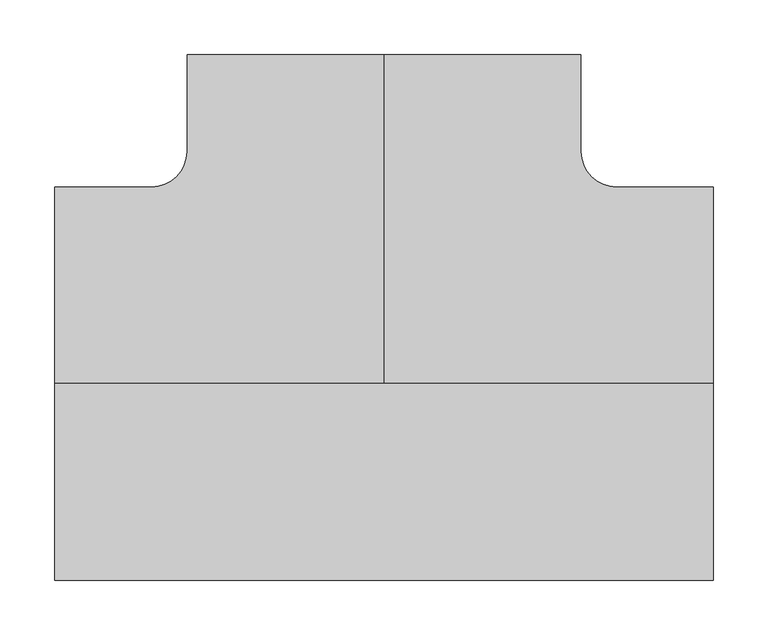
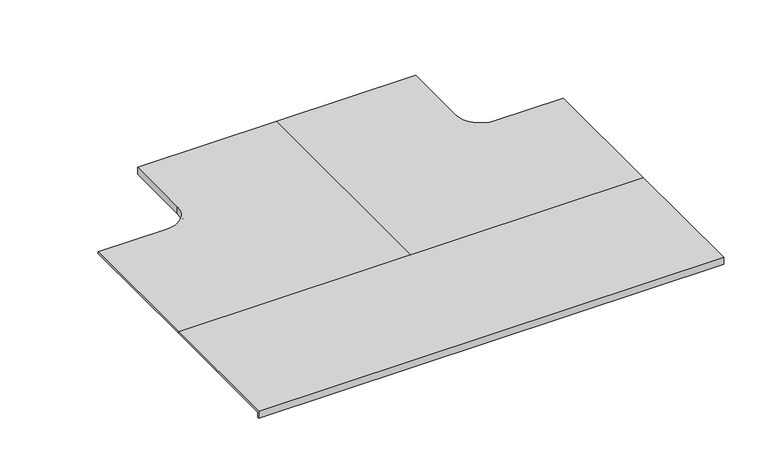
"""IFC4 building model written with IfcOpenShell, lengths in millimetres: cable carrier fitting geometry, CCT_Hyperline_FBTR-TEE-CVR Крышка на ответвитель Т-образный пластиковый : Крышка на ответвитель Т-образный пластиковый."""

from ifc_helpers import new_model, si_unit, frame, origin, place, context, project, spatial, polyline, circle_curve, outline, extrude, source, transform, mapped, element, save
from ifc_brep_helpers import plane_surface, cylinder_surface, revolved_surface, advanced_brep


def cable_carrier_fitting_42ad5d54(model_context):
    return source(origin(), model_context, "Body", "SolidModel", [
        extrude(outline(polyline([(-180.54, 52.54), (0.0, 52.54), (0.0, 50.0), (-178.0, 50.0), (-178.0, 43.0), (-180.54, 43.0), (-180.54, 52.54)])), frame((-302.0, 0.0, 0.0), z_axis=(1.0, 0.0, 0.0), x_axis=(0.0, 1.0, 0.0)), (0.0, 0.0, 1.0), 604.0),
        advanced_brep(
        [(302.0, 180.54, 52.54), (302.0, 0.0, 52.54), (302.0, 0.0, 50.0), (302.0, 180.54, 50.0), (213.0, 178.0, 50.0), (213.0, 178.0, 43.0), (282.0, 178.0, 43.0), (282.0, 178.0, 50.0), (178.0, 213.0, 43.0), (178.0, 302.0, 43.0), (180.54, 302.0, 43.0), (180.54, 213.0, 43.0), (213.0, 180.54, 43.0), (282.0, 180.54, 43.0), (213.0, 180.54, 52.54), (282.0, 180.54, 50.0), (178.0, 213.0, 50.0), (180.54, 213.0, 52.54), (0.0, 302.0, 52.54), (180.54, 302.0, 52.54), (178.0, 302.0, 50.0), (0.0, 302.0, 50.0), (0.0, 0.0, 52.54), (0.0, 0.0, 50.0)],
        [
            (0, 1),
            (1, 2),
            (2, 3),
            (3, 0),
            (4, 5),
            (5, 6),
            (6, 7),
            (7, 4),
            (5, 8, circle_curve(frame((213.0, 213.0, 43.0), z_axis=(0.0, 0.0, -1.0), x_axis=(0.0, -1.0, 0.0)), 35.0)),
            (8, 9),
            (9, 10),
            (10, 11),
            (11, 12, circle_curve(frame((213.0, 213.0, 43.0), z_axis=(0.0, 0.0, 1.0), x_axis=(0.0, -1.0, 0.0)), 32.46)),
            (12, 13),
            (13, 6),
            (14, 0),
            (3, 15),
            (15, 13),
            (12, 14),
            (4, 16, circle_curve(frame((213.0, 213.0, 50.0), z_axis=(0.0, 0.0, -1.0), x_axis=(0.0, -1.0, 0.0)), 35.0)),
            (16, 8),
            (17, 14, circle_curve(frame((213.0, 213.0, 52.54), z_axis=(0.0, 0.0, 1.0), x_axis=(0.0, -1.0, 0.0)), 32.46)),
            (11, 17),
            (18, 19),
            (19, 10),
            (9, 20),
            (20, 21),
            (21, 18),
            (16, 20),
            (19, 17),
            (18, 22),
            (22, 1),
            (22, 23),
            (23, 2),
            (23, 21),
            (7, 15),
        ],
        [
            plane_surface(frame((302.0, 178.0, 25.0), z_axis=(1.0, 0.0, 0.0), x_axis=(0.0, 0.0, 1.0))),
            plane_surface(frame((302.0, 178.0, 50.0), z_axis=(0.0, -1.0, 0.0), x_axis=(-1.0, 0.0, 0.0))),
            plane_surface(frame((302.0, 178.0, 43.0), z_axis=(0.0, 0.0, -1.0), x_axis=(-1.0, 0.0, 0.0))),
            plane_surface(frame((302.0, 180.54, 43.0), z_axis=(0.0, 1.0, 0.0), x_axis=(-1.0, 0.0, 0.0))),
            cylinder_surface(frame((213.0, 213.0, 25.0), z_axis=(0.0, 0.0, -1.0), x_axis=(0.0, -1.0, 0.0)), 35.0),
            revolved_surface(polyline([(213.0, 180.54, 43.0), (213.0, 180.54, 52.54)]), (213.0, 213.0, 25.0), (0.0, 0.0, -1.0)),
            plane_surface(frame((178.0, 302.0, 25.0), z_axis=(0.0, 1.0, 0.0), x_axis=(0.0, 0.0, 1.0))),
            plane_surface(frame((178.0, 213.0, 50.0), z_axis=(-1.0, 0.0, 0.0), x_axis=(0.0, 1.0, 0.0))),
            plane_surface(frame((180.54, 213.0, 43.0), z_axis=(1.0, 0.0, 0.0), x_axis=(0.0, 1.0, 0.0))),
            plane_surface(frame((302.0, 180.54, 52.54), z_axis=(0.0, 0.0, 1.0), x_axis=(-1.0, 0.0, 0.0))),
            plane_surface(frame((302.0, 0.0, 52.54), z_axis=(0.0, -1.0, 0.0), x_axis=(-1.0, 0.0, 0.0))),
            plane_surface(frame((302.0, 0.0, 50.0), z_axis=(0.0, 0.0, -1.0), x_axis=(-1.0, 0.0, 0.0))),
            plane_surface(frame((0.0, 213.0, 52.54), z_axis=(-1.0, 0.0, 0.0), x_axis=(0.0, 1.0, 0.0))),
            plane_surface(frame((282.0, 180.54, 43.0), z_axis=(1.0, 0.0, 0.0), x_axis=(0.0, -1.0, 0.0))),
        ],
        [
            (0, [[1, 2, 3, 4]]),
            (1, [[5, 6, 7, 8]]),
            (2, [[9, 10, 11, 12, 13, 14, 15, -6]]),
            (3, [[16, -4, 17, 18, -14, 19]]),
            (4, [[20, 21, -9, -5]]),
            (5, [[22, -19, -13, 23]]),
            (6, [[24, 25, -11, 26, 27, 28]]),
            (7, [[29, -26, -10, -21]]),
            (8, [[30, -23, -12, -25]]),
            (9, [[-1, -16, -22, -30, -24, 31, 32]]),
            (10, [[-2, -32, 33, 34]]),
            (11, [[-34, 35, -27, -29, -20, -8, 36, -17, -3]]),
            (12, [[-31, -28, -35, -33]]),
            (13, [[-36, -7, -15, -18]]),
        ],
    ),
        advanced_brep(
        [(-302.0, 180.54, 52.54), (-302.0, 180.54, 50.0), (-302.0, 0.0, 50.0), (-302.0, 0.0, 52.54), (-213.0, 178.0, 50.0), (-282.0, 178.0, 50.0), (-282.0, 178.0, 43.0), (-213.0, 178.0, 43.0), (-282.0, 180.54, 43.0), (-213.0, 180.54, 43.0), (-180.54, 213.0, 43.0), (-180.54, 302.0, 43.0), (-178.0, 302.0, 43.0), (-178.0, 213.0, 43.0), (-213.0, 180.54, 52.54), (-282.0, 180.54, 50.0), (-178.0, 213.0, 50.0), (-180.54, 213.0, 52.54), (0.0, 302.0, 52.54), (0.0, 302.0, 50.0), (-178.0, 302.0, 50.0), (-180.54, 302.0, 52.54), (0.0, 0.0, 52.54), (0.0, 0.0, 50.0)],
        [
            (0, 1),
            (1, 2),
            (2, 3),
            (3, 0),
            (4, 5),
            (5, 6),
            (6, 7),
            (7, 4),
            (6, 8),
            (8, 9),
            (9, 10, circle_curve(frame((-213.0, 213.0, 43.0), z_axis=(0.0, 0.0, 1.0), x_axis=(0.0, -1.0, 0.0)), 32.46)),
            (10, 11),
            (11, 12),
            (12, 13),
            (13, 7, circle_curve(frame((-213.0, 213.0, 43.0), z_axis=(0.0, 0.0, -1.0), x_axis=(0.0, -1.0, 0.0)), 35.0)),
            (14, 9),
            (8, 15),
            (15, 1),
            (0, 14),
            (13, 16),
            (16, 4, circle_curve(frame((-213.0, 213.0, 50.0), z_axis=(0.0, 0.0, -1.0), x_axis=(0.0, -1.0, 0.0)), 35.0)),
            (17, 10),
            (14, 17, circle_curve(frame((-213.0, 213.0, 52.54), z_axis=(0.0, 0.0, 1.0), x_axis=(0.0, -1.0, 0.0)), 32.46)),
            (18, 19),
            (19, 20),
            (20, 12),
            (11, 21),
            (21, 18),
            (20, 16),
            (17, 21),
            (3, 22),
            (22, 18),
            (2, 23),
            (23, 22),
            (15, 5),
            (19, 23),
        ],
        [
            plane_surface(frame((-302.0, 178.0, 25.0), z_axis=(-1.0, 0.0, 0.0), x_axis=(0.0, 0.0, 1.0))),
            plane_surface(frame((-302.0, 178.0, 50.0), z_axis=(0.0, -1.0, 0.0), x_axis=(1.0, 0.0, 0.0))),
            plane_surface(frame((-302.0, 178.0, 43.0), z_axis=(0.0, 0.0, -1.0), x_axis=(1.0, 0.0, 0.0))),
            plane_surface(frame((-302.0, 180.54, 43.0), z_axis=(0.0, 1.0, 0.0), x_axis=(1.0, 0.0, 0.0))),
            cylinder_surface(frame((-213.0, 213.0, 25.0), z_axis=(0.0, 0.0, -1.0), x_axis=(0.0, -1.0, 0.0)), 35.0),
            revolved_surface(polyline([(-213.0, 180.54, 43.0), (-213.0, 180.54, 52.54)]), (-213.0, 213.0, 25.0), (0.0, 0.0, -1.0)),
            plane_surface(frame((-178.0, 302.0, 25.0), z_axis=(0.0, 1.0, 0.0), x_axis=(0.0, 0.0, 1.0))),
            plane_surface(frame((-178.0, 213.0, 50.0), z_axis=(1.0, 0.0, 0.0), x_axis=(0.0, 1.0, 0.0))),
            plane_surface(frame((-180.54, 213.0, 43.0), z_axis=(-1.0, 0.0, 0.0), x_axis=(0.0, 1.0, 0.0))),
            plane_surface(frame((-302.0, 180.54, 52.54), z_axis=(0.0, 0.0, 1.0), x_axis=(1.0, 0.0, 0.0))),
            plane_surface(frame((-302.0, 0.0, 52.54), z_axis=(0.0, -1.0, 0.0), x_axis=(1.0, 0.0, 0.0))),
            plane_surface(frame((-302.0, 0.0, 50.0), z_axis=(0.0, 0.0, -1.0), x_axis=(1.0, 0.0, 0.0))),
            plane_surface(frame((0.0, 213.0, 52.54), z_axis=(1.0, 0.0, 0.0), x_axis=(0.0, 1.0, 0.0))),
            plane_surface(frame((-282.0, 180.54, 43.0), z_axis=(-1.0, 0.0, 0.0), x_axis=(0.0, -1.0, 0.0))),
        ],
        [
            (0, [[1, 2, 3, 4]]),
            (1, [[5, 6, 7, 8]]),
            (2, [[-7, 9, 10, 11, 12, 13, 14, 15]]),
            (3, [[16, -10, 17, 18, -1, 19]]),
            (4, [[-8, -15, 20, 21]]),
            (5, [[22, -11, -16, 23]]),
            (6, [[24, 25, 26, -13, 27, 28]]),
            (7, [[-20, -14, -26, 29]]),
            (8, [[-27, -12, -22, 30]]),
            (9, [[31, 32, -28, -30, -23, -19, -4]]),
            (10, [[33, 34, -31, -3]]),
            (11, [[-2, -18, 35, -5, -21, -29, -25, 36, -33]]),
            (12, [[-34, -36, -24, -32]]),
            (13, [[-17, -9, -6, -35]]),
        ],
    ),
    ])


if __name__ == "__main__":
    model = new_model("IFC4")
    model_context = context("Model", 3, world=origin())
    ifc_project = project(units=[si_unit("LENGTHUNIT", "METRE", prefix="MILLI")], contexts=[model_context])
    site = spatial("IfcSite", under=ifc_project)
    building = spatial("IfcBuilding", under=site)
    placement = place(None, origin())
    cable_carrier_fitting_shape = cable_carrier_fitting_42ad5d54(model_context)
    element("IfcCableCarrierFitting", 1, ObjectType="CCT_Hyperline_FBTR-TEE-CVR Крышка на ответвитель Т-образный пластиковый : Крышка на ответвитель Т-образный пластиковый", at=placement, inside=building, context=model_context, shape_type="MappedRepresentation", body=[
        mapped(cable_carrier_fitting_shape, transform((0.0, 0.0, 0.0), x_axis=(1.0, 0.0, 0.0), y_axis=(0.0, 1.0, 0.0), z_axis=(0.0, 0.0, 1.0))),
    ])
    save(model, "model.ifc")
